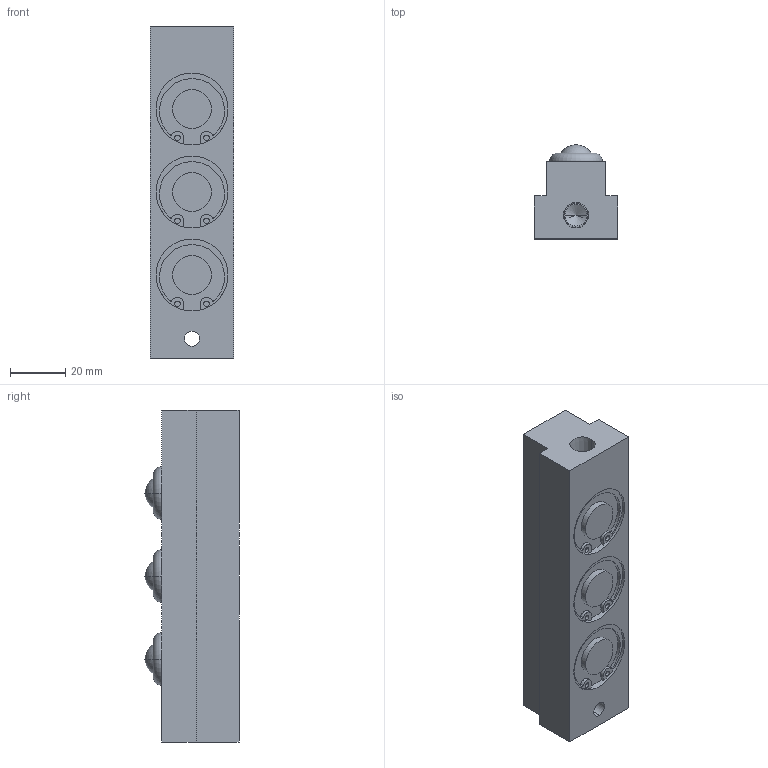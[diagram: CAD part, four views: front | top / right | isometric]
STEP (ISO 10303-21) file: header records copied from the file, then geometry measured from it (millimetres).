
FILE_DESCRIPTION (( 'STEP AP203' ), '1' );
FILE_NAME ('PVL20T-3.STEP', '2015-12-24T07:06:39', ( '' ), ( '' ), 'SwSTEP 2.0', 'SolidWorks 2013', '' );
FILE_SCHEMA (( 'CONFIG_CONTROL_DESIGN' ));
Length unit declared in the file: millimetre
Products named in the file (1): PVL20T-3
Bounding box: 30 x 34 x 120 mm (x, y, z)
Volume: 86910.9 mm3; surface area: 17449.4 mm2
Topology: 1 solids, 1 shells, 106 faces, 253 edges, 168 vertices
Faces by surface type: cylinder 54, plane 36, torus 6, sphere 6, cone 4
Entity records: 3220 total; most frequent: DIRECTION 613, CARTESIAN_POINT 526, ORIENTED_EDGE 502, AXIS2_PLACEMENT_3D 255, EDGE_CURVE 251, VERTEX_POINT 168, CIRCLE 148, EDGE_LOOP 129
